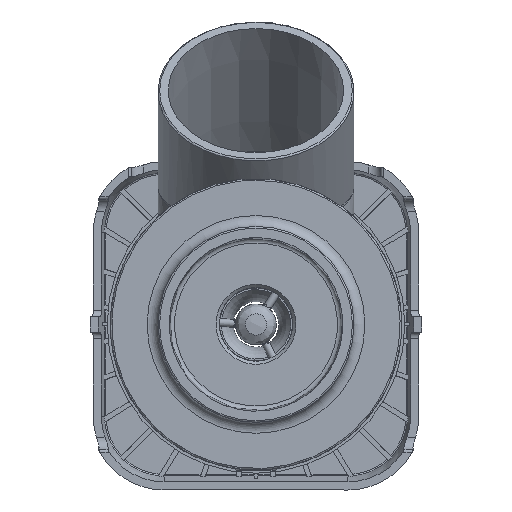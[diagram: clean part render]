
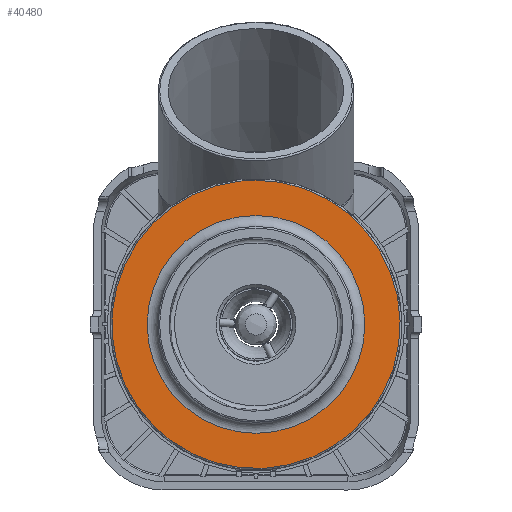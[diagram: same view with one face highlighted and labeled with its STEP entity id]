
A CAD part, left-side view. The second image highlights one B-rep face of the part: STEP entity #40480.
In plain terms, the highlighted planar face has unit normal (-1, 0, 0).
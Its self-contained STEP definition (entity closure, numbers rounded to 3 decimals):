
#6752=PLANE('',#43961);
#8078=FACE_BOUND('',#12080,.T.);
#9389=FACE_OUTER_BOUND('',#12079,.T.);
#12079=EDGE_LOOP('',(#29909));
#12080=EDGE_LOOP('',(#29910));
#14534=CIRCLE('',#43819,92.);
#14616=CIRCLE('',#43962,69.5);
#17219=VERTEX_POINT('',#68583);
#17299=VERTEX_POINT('',#70120);
#21711=EDGE_CURVE('',#17219,#17219,#14534,.T.);
#21870=EDGE_CURVE('',#17299,#17299,#14616,.T.);
#29909=ORIENTED_EDGE('',*,*,#21711,.F.);
#29910=ORIENTED_EDGE('',*,*,#21870,.F.);
#40480=ADVANCED_FACE('',(#9389,#8078),#6752,.T.);
#43819=AXIS2_PLACEMENT_3D('',#68584,#51150,#51151);
#43961=AXIS2_PLACEMENT_3D('',#70119,#51477,#51478);
#43962=AXIS2_PLACEMENT_3D('',#70121,#51479,#51480);
#51150=DIRECTION('center_axis',(1.,0.,0.));
#51151=DIRECTION('ref_axis',(0.,0.,
-1.));
#51477=DIRECTION('center_axis',(-1.,0.,0.));
#51478=DIRECTION('ref_axis',(0.,1.,0.));
#51479=DIRECTION('center_axis',(-1.,0.,0.));
#51480=DIRECTION('ref_axis',(0.,-1.,0.));
#68583=CARTESIAN_POINT('',(-78.432,48.328,42.01));
#68584=CARTESIAN_POINT('Origin',(-78.432,48.328,-49.99));
#70119=CARTESIAN_POINT('Origin',(-78.432,48.328,-82.49));
#70120=CARTESIAN_POINT('',(-78.432,117.828,-49.99));
#70121=CARTESIAN_POINT('Origin',(-78.432,48.328,-49.99));
